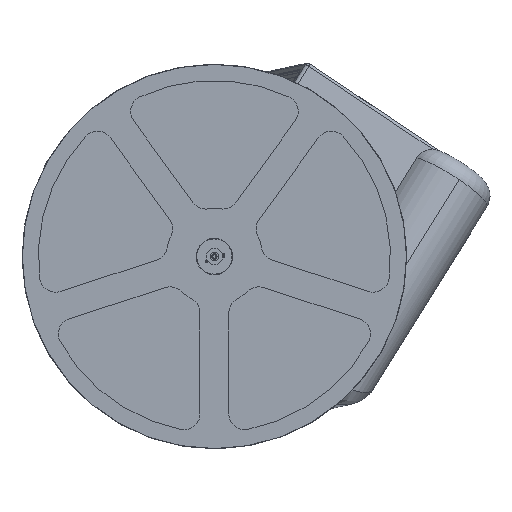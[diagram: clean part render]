
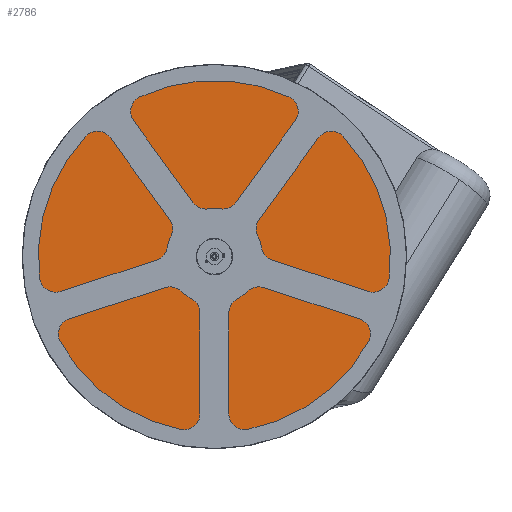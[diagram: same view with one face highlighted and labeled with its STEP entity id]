
A CAD part, front view. The second image highlights one B-rep face of the part: STEP entity #2786.
In plain terms, the highlighted planar face has unit normal (0, -1, 0).
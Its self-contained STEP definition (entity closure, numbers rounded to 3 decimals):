
#210 = ORIENTED_EDGE ( 'NONE', *, *, #10985, .T. ) ;
#250 = EDGE_CURVE ( 'NONE', #6766, #10766, #11636, .T. ) ;
#384 = AXIS2_PLACEMENT_3D ( 'NONE', #2514, #8800, #3477 ) ;
#441 = AXIS2_PLACEMENT_3D ( 'NONE', #9993, #10032, #10036 ) ;
#585 = VERTEX_POINT ( 'NONE', #1059 ) ;
#882 = CARTESIAN_POINT ( 'NONE',  ( 0., 0., 0. ) ) ;
#1011 = CIRCLE ( 'NONE', #2335, 2.75 ) ;
#1059 = CARTESIAN_POINT ( 'NONE',  ( 30., 0., -2.75 ) ) ;
#1152 = AXIS2_PLACEMENT_3D ( 'NONE', #882, #7326, #1869 ) ;
#1371 = ORIENTED_EDGE ( 'NONE', *, *, #250, .F. ) ;
#1414 = CARTESIAN_POINT ( 'NONE',  ( 0., 0., -6.25 ) ) ;
#1572 = CIRCLE ( 'NONE', #1152, 6.25 ) ;
#1807 = CARTESIAN_POINT ( 'NONE',  ( 30., 0., 0. ) ) ;
#1869 = DIRECTION ( 'NONE',  ( 0., 0., 1. ) ) ;
#2335 = AXIS2_PLACEMENT_3D ( 'NONE', #1807, #8156, #2776 ) ;
#2352 = CARTESIAN_POINT ( 'NONE',  ( 0., 0., 0. ) ) ;
#2514 = CARTESIAN_POINT ( 'NONE',  ( 0., 0., 0. ) ) ;
#2776 = DIRECTION ( 'NONE',  ( 0., 0., 1. ) ) ;
#2786 = ADVANCED_FACE ( 'NONE', ( #8911, #10806, #6302 ), #9569, .F. ) ;
#2864 = EDGE_CURVE ( 'NONE', #10766, #6766, #9929, .T. ) ;
#3477 = DIRECTION ( 'NONE',  ( 0., 0., 1. ) ) ;
#3623 = ORIENTED_EDGE ( 'NONE', *, *, #11358, .T. ) ;
#3646 = ORIENTED_EDGE ( 'NONE', *, *, #11648, .T. ) ;
#4131 = DIRECTION ( 'NONE',  ( 0., 1., 0. ) ) ;
#4242 = DIRECTION ( 'NONE',  ( 0., 0., 1. ) ) ;
#4281 = DIRECTION ( 'NONE',  ( 0., 1., 0. ) ) ;
#4623 = AXIS2_PLACEMENT_3D ( 'NONE', #9614, #4281, #10571 ) ;
#4713 = CARTESIAN_POINT ( 'NONE',  ( 30., 0., 2.75 ) ) ;
#5626 = CARTESIAN_POINT ( 'NONE',  ( 0., 0., 601. ) ) ;
#5897 = EDGE_LOOP ( 'NONE', ( #9968, #210 ) ) ;
#6302 = FACE_BOUND ( 'NONE', #7264, .T. ) ;
#6766 = VERTEX_POINT ( 'NONE', #8802 ) ;
#6870 = ORIENTED_EDGE ( 'NONE', *, *, #2864, .F. ) ;
#7062 = CIRCLE ( 'NONE', #4623, 2.75 ) ;
#7264 = EDGE_LOOP ( 'NONE', ( #3623, #3646 ) ) ;
#7326 = DIRECTION ( 'NONE',  ( 0., 1., 0. ) ) ;
#7624 = AXIS2_PLACEMENT_3D ( 'NONE', #9462, #4131, #10426 ) ;
#7673 = EDGE_CURVE ( 'NONE', #11663, #7918, #1572, .T. ) ;
#7918 = VERTEX_POINT ( 'NONE', #11546 ) ;
#8156 = DIRECTION ( 'NONE',  ( 0., 1., 0. ) ) ;
#8590 = AXIS2_PLACEMENT_3D ( 'NONE', #2352, #11411, #4242 ) ;
#8800 = DIRECTION ( 'NONE',  ( 0., 1., 0. ) ) ;
#8802 = CARTESIAN_POINT ( 'NONE',  ( 0., 0., -601. ) ) ;
#8911 = FACE_OUTER_BOUND ( 'NONE', #9831, .T. ) ;
#9462 = CARTESIAN_POINT ( 'NONE',  ( 0., 0., 0. ) ) ;
#9569 = PLANE ( 'NONE',  #8590 ) ;
#9599 = CIRCLE ( 'NONE', #7624, 6.25 ) ;
#9614 = CARTESIAN_POINT ( 'NONE',  ( 30., 0., 0. ) ) ;
#9831 = EDGE_LOOP ( 'NONE', ( #1371, #6870 ) ) ;
#9929 = CIRCLE ( 'NONE', #384, 601. ) ;
#9968 = ORIENTED_EDGE ( 'NONE', *, *, #7673, .T. ) ;
#9993 = CARTESIAN_POINT ( 'NONE',  ( 0., 0., 0. ) ) ;
#10032 = DIRECTION ( 'NONE',  ( 0., 1., 0. ) ) ;
#10036 = DIRECTION ( 'NONE',  ( 0., 0., 1. ) ) ;
#10426 = DIRECTION ( 'NONE',  ( 0., 0., 1. ) ) ;
#10571 = DIRECTION ( 'NONE',  ( 0., 0., 1. ) ) ;
#10731 = VERTEX_POINT ( 'NONE', #4713 ) ;
#10766 = VERTEX_POINT ( 'NONE', #5626 ) ;
#10806 = FACE_BOUND ( 'NONE', #5897, .T. ) ;
#10985 = EDGE_CURVE ( 'NONE', #7918, #11663, #9599, .T. ) ;
#11358 = EDGE_CURVE ( 'NONE', #585, #10731, #1011, .T. ) ;
#11411 = DIRECTION ( 'NONE',  ( 0., 1., 0. ) ) ;
#11546 = CARTESIAN_POINT ( 'NONE',  ( 0., 0., 6.25 ) ) ;
#11636 = CIRCLE ( 'NONE', #441, 601. ) ;
#11648 = EDGE_CURVE ( 'NONE', #10731, #585, #7062, .T. ) ;
#11663 = VERTEX_POINT ( 'NONE', #1414 ) ;
